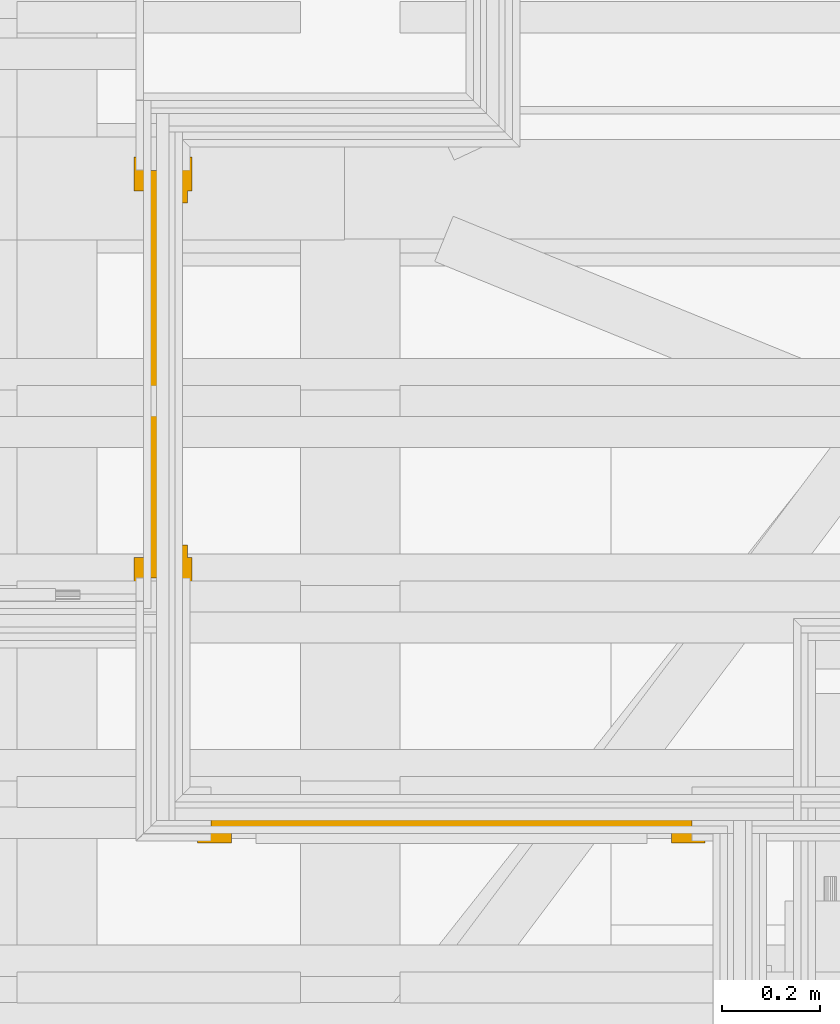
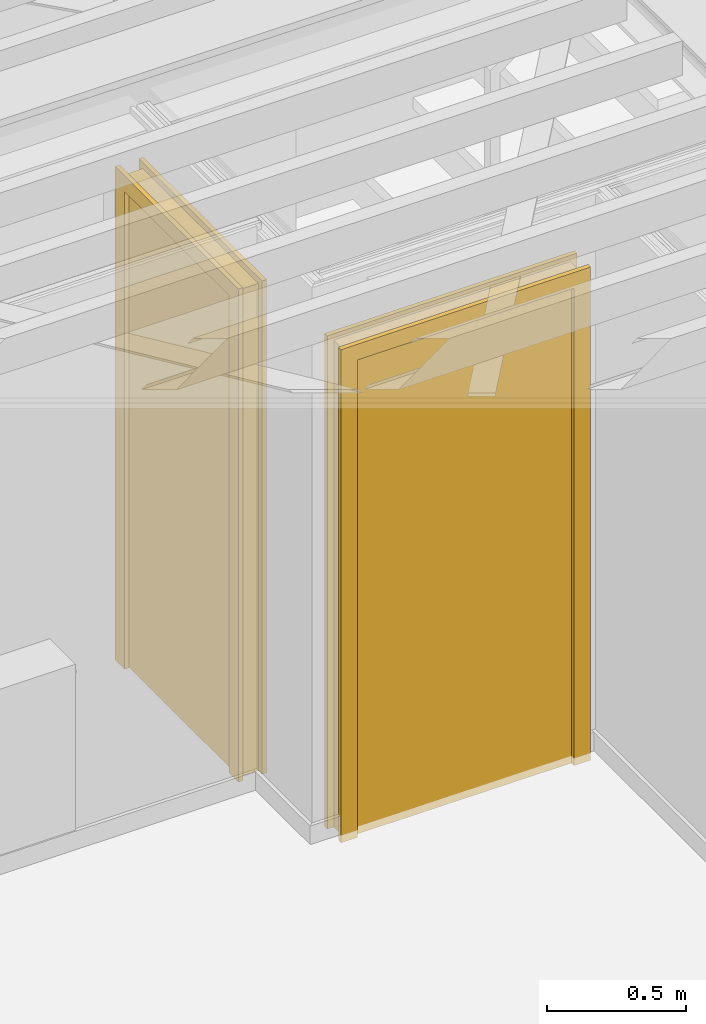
# One storey, part 111 of 183: 2 doors.
"""IFC2X3 building model written with IfcOpenShell, lengths in metres."""

from ifc_helpers import new_model, entity, si_unit, converted_unit, derived_unit, money_unit, direction, frame, origin_with_axes, place, context, subcontext, project, spatial, faceted_brep, material, type_object, element, save


model = new_model("IFC2X3")

# Units and contexts
model_context = context("Model", 3, precision=1e-05, world=origin_with_axes(), true_north=direction((0.0, 1.0)))
body_context = subcontext(model_context, "Body", "Model", "MODEL_VIEW", scale=1.0)
ifc_project = project(units=[si_unit("LENGTHUNIT", "METRE"), si_unit("AREAUNIT", "SQUARE_METRE"), si_unit("VOLUMEUNIT", "CUBIC_METRE"), si_unit("ABSORBEDDOSEUNIT", "GRAY"), si_unit("AMOUNTOFSUBSTANCEUNIT", "MOLE"), si_unit("DOSEEQUIVALENTUNIT", "SIEVERT"), si_unit("ELECTRICCAPACITANCEUNIT", "FARAD"), si_unit("ELECTRICCHARGEUNIT", "COULOMB"), si_unit("ELECTRICCONDUCTANCEUNIT", "SIEMENS"), si_unit("ELECTRICCURRENTUNIT", "AMPERE"), si_unit("ELECTRICRESISTANCEUNIT", "OHM"), si_unit("ELECTRICVOLTAGEUNIT", "VOLT"), si_unit("ENERGYUNIT", "JOULE"), si_unit("FORCEUNIT", "NEWTON"), si_unit("FREQUENCYUNIT", "HERTZ"), si_unit("ILLUMINANCEUNIT", "LUX"), si_unit("INDUCTANCEUNIT", "HENRY"), si_unit("LUMINOUSFLUXUNIT", "LUMEN"), si_unit("LUMINOUSINTENSITYUNIT", "CANDELA"), si_unit("MAGNETICFLUXDENSITYUNIT", "TESLA"), si_unit("MAGNETICFLUXUNIT", "WEBER"), si_unit("MASSUNIT", "GRAM"), converted_unit("PLANEANGLEUNIT", "degree", entity("IfcReal", 0.0174532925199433), si_unit("PLANEANGLEUNIT", "RADIAN"), dimensions=[0, 0, 0, 0, 0, 0, 0]), si_unit("POWERUNIT", "WATT"), si_unit("PRESSUREUNIT", "PASCAL"), si_unit("RADIOACTIVITYUNIT", "BECQUEREL"), si_unit("SOLIDANGLEUNIT", "STERADIAN"), si_unit("THERMODYNAMICTEMPERATUREUNIT", "KELVIN"), si_unit("TIMEUNIT", "SECOND"), derived_unit("ACCELERATIONUNIT", [(si_unit("LENGTHUNIT", "METRE"), 1), (si_unit("TIMEUNIT", "SECOND"), -2)]), derived_unit("ANGULARVELOCITYUNIT", [(converted_unit("PLANEANGLEUNIT", "degree", entity("IfcReal", 0.0174532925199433), si_unit("PLANEANGLEUNIT", "RADIAN"), dimensions=[0, 0, 0, 0, 0, 0, 0]), 1), (si_unit("TIMEUNIT", "SECOND"), -1)]), derived_unit("CURVATUREUNIT", [(converted_unit("PLANEANGLEUNIT", "degree", entity("IfcReal", 0.0174532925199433), si_unit("PLANEANGLEUNIT", "RADIAN"), dimensions=[0, 0, 0, 0, 0, 0, 0]), 1), (si_unit("LENGTHUNIT", "METRE"), -1)]), derived_unit("DYNAMICVISCOSITYUNIT", [(si_unit("PRESSUREUNIT", "PASCAL"), 1), (si_unit("TIMEUNIT", "SECOND"), 1)]), derived_unit("HEATFLUXDENSITYUNIT", [(si_unit("POWERUNIT", "WATT"), 1), (si_unit("LENGTHUNIT", "METRE"), -2)]), derived_unit("HEATINGVALUEUNIT", [(si_unit("ENERGYUNIT", "JOULE"), 1), (si_unit("MASSUNIT", "GRAM"), -1)]), derived_unit("INTEGERCOUNTRATEUNIT", [(si_unit("TIMEUNIT", "SECOND"), -1)]), derived_unit("IONCONCENTRATIONUNIT", [(si_unit("MASSUNIT", "GRAM"), 1), (si_unit("VOLUMEUNIT", "CUBIC_METRE"), -1)]), derived_unit("ISOTHERMALMOISTURECAPACITYUNIT", [(si_unit("VOLUMEUNIT", "CUBIC_METRE"), 1), (si_unit("MASSUNIT", "GRAM"), -1)]), derived_unit("KINEMATICVISCOSITYUNIT", [(si_unit("AREAUNIT", "SQUARE_METRE"), 1), (si_unit("TIMEUNIT", "SECOND"), -1)]), derived_unit("LINEARFORCEUNIT", [(si_unit("FORCEUNIT", "NEWTON"), 1), (si_unit("LENGTHUNIT", "METRE"), -1)]), derived_unit("LINEARMOMENTUNIT", [(si_unit("FORCEUNIT", "NEWTON"), 1), (si_unit("LENGTHUNIT", "METRE"), -1)]), derived_unit("LINEARSTIFFNESSUNIT", [(si_unit("FORCEUNIT", "NEWTON"), 1), (si_unit("LENGTHUNIT", "METRE"), -1)]), derived_unit("LINEARVELOCITYUNIT", [(si_unit("LENGTHUNIT", "METRE"), 1), (si_unit("TIMEUNIT", "SECOND"), -1)]), derived_unit("LUMINOUSINTENSITYDISTRIBUTIONUNIT", [(si_unit("LUMINOUSINTENSITYUNIT", "CANDELA"), 1), (si_unit("LUMINOUSFLUXUNIT", "LUMEN"), -1)]), derived_unit("MASSDENSITYUNIT", [(si_unit("MASSUNIT", "GRAM"), 1), (si_unit("VOLUMEUNIT", "CUBIC_METRE"), -1)]), derived_unit("MASSFLOWRATEUNIT", [(si_unit("MASSUNIT", "GRAM"), 1), (si_unit("TIMEUNIT", "SECOND"), -1)]), derived_unit("MASSPERLENGTHUNIT", [(si_unit("MASSUNIT", "GRAM"), 1), (si_unit("LENGTHUNIT", "METRE"), -1)]), derived_unit("MODULUSOFELASTICITYUNIT", [(si_unit("FORCEUNIT", "NEWTON"), 1), (si_unit("AREAUNIT", "SQUARE_METRE"), -1)]), derived_unit("MODULUSOFLINEARSUBGRADEREACTIONUNIT", [(si_unit("FORCEUNIT", "NEWTON"), 1), (si_unit("LENGTHUNIT", "METRE"), -2)]), derived_unit("MODULUSOFROTATIONALSUBGRADEREACTIONUNIT", [(si_unit("FORCEUNIT", "NEWTON"), 1), (si_unit("LENGTHUNIT", "METRE"), 1)]), derived_unit("MODULUSOFSUBGRADEREACTIONUNIT", [(si_unit("FORCEUNIT", "NEWTON"), 1), (si_unit("VOLUMEUNIT", "CUBIC_METRE"), -1)]), derived_unit("MOISTUREDIFFUSIVITYUNIT", [(si_unit("VOLUMEUNIT", "CUBIC_METRE"), 1), (si_unit("TIMEUNIT", "SECOND"), -1)]), derived_unit("MOLECULARWEIGHTUNIT", [(si_unit("MASSUNIT", "GRAM"), 1), (si_unit("AMOUNTOFSUBSTANCEUNIT", "MOLE"), -1)]), derived_unit("PLANARFORCEUNIT", [(si_unit("FORCEUNIT", "NEWTON"), 1), (si_unit("LENGTHUNIT", "METRE"), -2)]), derived_unit("ROTATIONALFREQUENCYUNIT", [(si_unit("TIMEUNIT", "SECOND"), -1)]), derived_unit("ROTATIONALMASSUNIT", [(si_unit("MASSUNIT", "GRAM"), 1), (si_unit("LENGTHUNIT", "METRE"), 2)]), derived_unit("ROTATIONALSTIFFNESSUNIT", [(si_unit("FORCEUNIT", "NEWTON"), 1), (si_unit("LENGTHUNIT", "METRE"), 1), (converted_unit("PLANEANGLEUNIT", "degree", entity("IfcReal", 0.0174532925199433), si_unit("PLANEANGLEUNIT", "RADIAN"), dimensions=[0, 0, 0, 0, 0, 0, 0]), -1)]), derived_unit("SECTIONAREAINTEGRALUNIT", [(si_unit("LENGTHUNIT", "METRE"), 5)]), derived_unit("SECTIONMODULUSUNIT", [(si_unit("LENGTHUNIT", "METRE"), 3)]), derived_unit("SHEARMODULUSUNIT", [(si_unit("FORCEUNIT", "NEWTON"), 1), (si_unit("AREAUNIT", "SQUARE_METRE"), -1)]), derived_unit("SOUNDPOWERUNIT", [(si_unit("ENERGYUNIT", "JOULE"), 1), (si_unit("TIMEUNIT", "SECOND"), -1)]), derived_unit("SPECIFICHEATCAPACITYUNIT", [(si_unit("FORCEUNIT", "NEWTON"), 1), (si_unit("MASSUNIT", "GRAM"), -1), (si_unit("THERMODYNAMICTEMPERATUREUNIT", "KELVIN"), -1)]), derived_unit("TEMPERATUREGRADIENTUNIT", [(si_unit("THERMODYNAMICTEMPERATUREUNIT", "KELVIN"), 1), (si_unit("LENGTHUNIT", "METRE"), -1)]), derived_unit("THERMALADMITTANCEUNIT", [(si_unit("POWERUNIT", "WATT"), 1), (si_unit("AREAUNIT", "SQUARE_METRE"), -1), (si_unit("THERMODYNAMICTEMPERATUREUNIT", "KELVIN"), -1)]), derived_unit("THERMALCONDUCTANCEUNIT", [(si_unit("POWERUNIT", "WATT"), 1), (si_unit("LENGTHUNIT", "METRE"), -1), (si_unit("THERMODYNAMICTEMPERATUREUNIT", "KELVIN"), -1)]), derived_unit("THERMALEXPANSIONCOEFFICIENTUNIT", [(si_unit("THERMODYNAMICTEMPERATUREUNIT", "KELVIN"), -1)]), derived_unit("THERMALRESISTANCEUNIT", [(si_unit("AREAUNIT", "SQUARE_METRE"), 1), (si_unit("POWERUNIT", "WATT"), -1)]), derived_unit("THERMALTRANSMITTANCEUNIT", [(si_unit("POWERUNIT", "WATT"), 1), (si_unit("AREAUNIT", "SQUARE_METRE"), -1), (si_unit("THERMODYNAMICTEMPERATUREUNIT", "KELVIN"), -1)]), derived_unit("TORQUEUNIT", [(si_unit("FORCEUNIT", "NEWTON"), 1), (si_unit("LENGTHUNIT", "METRE"), 1)]), derived_unit("VAPORPERMEABILITYUNIT", [(si_unit("MASSUNIT", "GRAM"), 1), (si_unit("TIMEUNIT", "SECOND"), -1)]), derived_unit("VOLUMETRICFLOWRATEUNIT", [(si_unit("VOLUMEUNIT", "CUBIC_METRE"), 1), (si_unit("TIMEUNIT", "SECOND"), -1)]), derived_unit("WARPINGCONSTANTUNIT", [(si_unit("LENGTHUNIT", "METRE"), 6)]), derived_unit("WARPINGMOMENTUNIT", [(si_unit("FORCEUNIT", "NEWTON"), 1), (si_unit("LENGTHUNIT", "METRE"), 2)]), money_unit("GBP")], contexts=[model_context])

# Site, building, storey, space
site_placement = place(None, origin_with_axes())
site = spatial("IfcSite", under=ifc_project, at=site_placement, Name="Site", CompositionType="ELEMENT")
building_placement = place(site_placement, origin_with_axes())
building = spatial("IfcBuilding", under=site, at=building_placement, Name="Building01", CompositionType="ELEMENT")
storey_placement = place(building_placement, frame((0.0, 0.0, 5.15), z_axis=(0.0, 0.0, 1.0), x_axis=(1.0, 0.0, 0.0)))
storey = spatial("IfcBuildingStorey", under=building, at=storey_placement, Name="1F", CompositionType="ELEMENT", Elevation=5.15)
space_placement = place(storey_placement, frame((12.175, 4.189428, 9.81), z_axis=(0.0, 0.0, 1.0), x_axis=(0.0, 1.0, 0.0)))
space = spatial("IfcSpace", under=storey, at=space_placement, Name="25", CompositionType="ELEMENT", InteriorOrExteriorSpace="NOTDEFINED")

# Doors
ifc_material = material(Name="A_BSUK_Doors")
door_style = type_object("IfcDoorStyle", Name="A-Doors-SingleFlush", ConstructionType="USERDEFINED", OperationType="SINGLE_SWING_LEFT", ParameterTakesPrecedence=False, Sizeable=False)
door_1_placement = place(storey_placement, frame((3.039976, 5.344976, 9.78), z_axis=(0.0, 0.0, 1.0), x_axis=(0.0, 1.0, 0.0)))
element("IfcDoor", 1, at=door_1_placement, inside=space, type_object=door_style, material=ifc_material, Name="4.19", ObjectType="A-Doors-SingleFlush", OverallHeight=2.16900000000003, OverallWidth=0.888000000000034, context=body_context, shape_type="Brep", body=[
    faceted_brep([(0.0, -0.099, 2.1), (0.75, -0.099, 2.1), (0.75, -0.099, 0.0), (0.819, -0.099, 0.0), (0.819, -0.099, 2.169), (-0.069, -0.099, 2.169), (-0.069, -0.099, 0.0), (0.0, -0.099, 0.0), (0.819, -0.08, 2.169), (0.819, -0.08, 0.0), (-0.069, -0.08, 0.0), (-0.069, -0.08, 2.169), (-0.042, -0.08, 0.0), (-0.042, 0.0, 0.0), (-0.069, 0.0, 0.0), (-0.069, 0.019, 0.0), (0.0, 0.019, 0.0), (0.0, 0.019, 2.1), (0.75, 0.019, 2.1), (-0.069, 0.019, 2.169), (0.819, 0.019, 2.169), (0.819, 0.019, 0.0), (0.75, 0.019, 0.0), (-0.069, 0.0, 2.169), (-0.042, 0.0, 2.142), (-0.042, -0.08, 2.142), (0.792, 0.0, 2.142), (0.792, -0.08, 2.142), (0.792, -0.08, 0.0), (0.792, 0.0, 0.0), (0.819, 0.0, 0.0), (0.819, 0.0, 2.169)], [[[0, 1, 2, 3, 4, 5, 6, 7]], [[8, 4, 3, 9]], [[10, 6, 5, 11]], [[11, 5, 4, 8]], [[7, 6, 10, 12, 13, 14, 15, 16]], [[7, 16, 17, 0]], [[0, 17, 18, 1]], [[17, 16, 15, 19, 20, 21, 22, 18]], [[1, 18, 22, 2]], [[14, 23, 19, 15]], [[24, 13, 12, 25]], [[26, 24, 25, 27]], [[11, 8, 9, 28, 27, 25, 12, 10]], [[27, 28, 29, 26]], [[26, 29, 30, 31, 23, 14, 13, 24]], [[22, 21, 30, 29, 28, 9, 3, 2]], [[30, 21, 20, 31]], [[31, 20, 19, 23]]]),
    faceted_brep([(0.75, -0.09, 0.0), (0.75, -0.04, 0.0), (0.75, -0.04, 2.1), (0.75, -0.09, 2.1), (0.025, -0.09, 2.075), (0.725, -0.09, 2.075), (0.725, -0.09, 0.0), (0.0, -0.09, 2.1), (0.0, -0.09, 0.0), (0.025, -0.09, 0.0), (0.0, -0.04, 0.0), (0.025, -0.04, 0.0), (0.0, -0.04, 2.1), (0.025, -0.04, 2.075), (0.725, -0.04, 0.0), (0.725, -0.04, 2.075)], [[[0, 1, 2, 3]], [[4, 5, 6, 0, 3, 7, 8, 9]], [[9, 8, 10, 11]], [[3, 2, 12, 7]], [[7, 12, 10, 8]], [[13, 11, 10, 12, 2, 1, 14, 15]], [[5, 15, 14, 6]], [[14, 1, 0, 6]], [[9, 11, 13, 4]], [[4, 13, 15, 5]]]),
    faceted_brep([(0.0, -0.04, 2.1), (0.0, 0.0, 2.1), (0.0, 0.0, 0.0), (0.0, -0.04, 0.0), (0.75, -0.04, 0.0), (0.75, 0.0, 0.0), (0.75, 0.0, 2.1), (0.75, -0.04, 2.1)], [[[0, 1, 2, 3]], [[4, 5, 6, 7]], [[3, 2, 5, 4]], [[3, 4, 7, 0]], [[7, 6, 1, 0]], [[1, 6, 5, 2]]]),
])
door_2_placement = place(storey_placement, frame((4.119976, 4.779939, 9.78), z_axis=(0.0, 0.0, 1.0), x_axis=(-1.0, 0.0, 0.0)))
element("IfcDoor", 2, at=door_2_placement, inside=space, type_object=door_style, material=ifc_material, Name="4.20", ObjectType="A-Doors-SingleFlush", OverallHeight=2.16900000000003, OverallWidth=1.03800000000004, context=body_context, shape_type="Brep", body=[
    faceted_brep([(0.0, -0.099, 2.1), (0.9, -0.099, 2.1), (0.9, -0.099, 0.0), (0.969, -0.099, 0.0), (0.969, -0.099, 2.169), (-0.069, -0.099, 2.169), (-0.069, -0.099, 0.0), (0.0, -0.099, 0.0), (0.969, -0.08, 2.169), (0.969, -0.08, 0.0), (-0.069, -0.08, 0.0), (-0.069, -0.08, 2.169), (-0.042, -0.08, 0.0), (-0.042, 0.0, 0.0), (-0.069, 0.0, 0.0), (-0.069, 0.019, 0.0), (0.0, 0.019, 0.0), (0.0, 0.019, 2.1), (0.9, 0.019, 2.1), (-0.069, 0.019, 2.169), (0.969, 0.019, 2.169), (0.969, 0.019, 0.0), (0.9, 0.019, 0.0), (-0.069, 0.0, 2.169), (-0.042, 0.0, 2.142), (-0.042, -0.08, 2.142), (0.942, 0.0, 2.142), (0.942, -0.08, 2.142), (0.942, -0.08, 0.0), (0.942, 0.0, 0.0), (0.969, 0.0, 0.0), (0.969, 0.0, 2.169)], [[[0, 1, 2, 3, 4, 5, 6, 7]], [[8, 4, 3, 9]], [[10, 6, 5, 11]], [[11, 5, 4, 8]], [[7, 6, 10, 12, 13, 14, 15, 16]], [[7, 16, 17, 0]], [[0, 17, 18, 1]], [[17, 16, 15, 19, 20, 21, 22, 18]], [[1, 18, 22, 2]], [[14, 23, 19, 15]], [[24, 13, 12, 25]], [[26, 24, 25, 27]], [[11, 8, 9, 28, 27, 25, 12, 10]], [[27, 28, 29, 26]], [[26, 29, 30, 31, 23, 14, 13, 24]], [[22, 21, 30, 29, 28, 9, 3, 2]], [[30, 21, 20, 31]], [[31, 20, 19, 23]]]),
    faceted_brep([(0.9, -0.09, 0.0), (0.9, -0.04, 0.0), (0.9, -0.04, 2.1), (0.9, -0.09, 2.1), (0.025, -0.09, 2.075), (0.875, -0.09, 2.075), (0.875, -0.09, 0.0), (0.0, -0.09, 2.1), (0.0, -0.09, 0.0), (0.025, -0.09, 0.0), (0.0, -0.04, 0.0), (0.025, -0.04, 0.0), (0.0, -0.04, 2.1), (0.025, -0.04, 2.075), (0.875, -0.04, 0.0), (0.875, -0.04, 2.075)], [[[0, 1, 2, 3]], [[4, 5, 6, 0, 3, 7, 8, 9]], [[9, 8, 10, 11]], [[3, 2, 12, 7]], [[7, 12, 10, 8]], [[13, 11, 10, 12, 2, 1, 14, 15]], [[5, 15, 14, 6]], [[14, 1, 0, 6]], [[9, 11, 13, 4]], [[4, 13, 15, 5]]]),
    faceted_brep([(0.0, -0.04, 2.1), (0.0, 0.0, 2.1), (0.0, 0.0, 0.0), (0.0, -0.04, 0.0), (0.9, -0.04, 0.0), (0.9, 0.0, 0.0), (0.9, 0.0, 2.1), (0.9, -0.04, 2.1)], [[[0, 1, 2, 3]], [[4, 5, 6, 7]], [[3, 2, 5, 4]], [[3, 4, 7, 0]], [[7, 6, 1, 0]], [[1, 6, 5, 2]]]),
])

save(model, "model.ifc")
